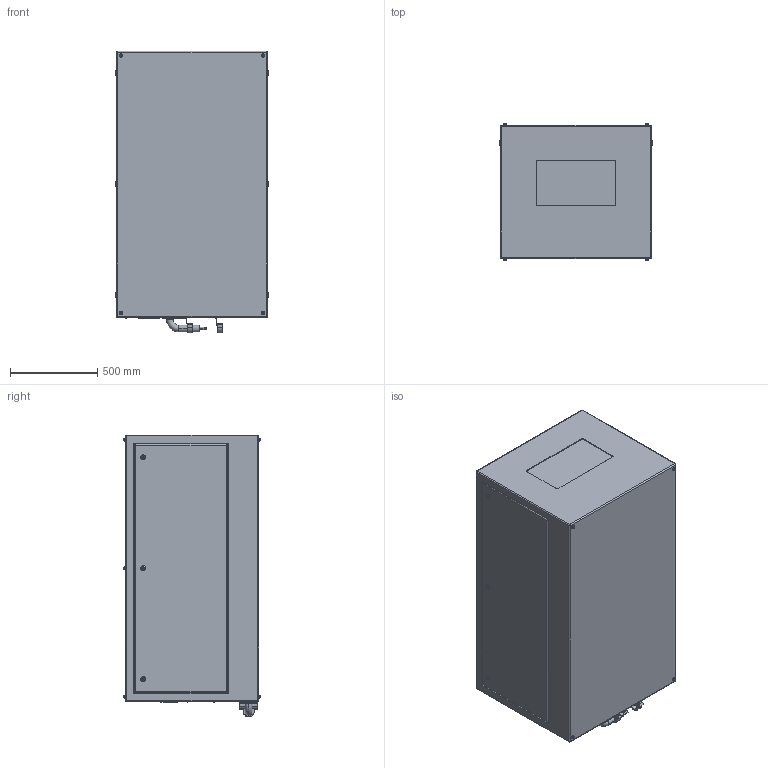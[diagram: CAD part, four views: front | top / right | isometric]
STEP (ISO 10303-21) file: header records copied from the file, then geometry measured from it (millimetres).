
FILE_DESCRIPTION (( 'STEP AP214' ), '1' );
FILE_NAME ('Oasis 59.314.L R02.STEP', '2022-09-12T23:42:20', ( '' ), ( '' ), 'SwSTEP 2.0', 'SolidWorks 2020', '' );
FILE_SCHEMA (( 'AUTOMOTIVE_DESIGN' ));
Length unit declared in the file: inch
Products named in the file (1): Oasis 59.314.L R02
Bounding box: 876.3 x 779.27 x 1612.9 mm (x, y, z)
Volume: 1002080052.3 mm3; surface area: 6810990.4 mm2
Topology: 3 solids, 9 shells, 510 faces, 1167 edges, 740 vertices
Faces by surface type: plane 279, cylinder 177, torus 46, bspline 8
Entity records: 19451 total; most frequent: CARTESIAN_POINT 2930, DIRECTION 2543, ORIENTED_EDGE 2318, EDGE_CURVE 1159, AXIS2_PLACEMENT_3D 913, VERTEX_POINT 740, LINE 717, VECTOR 717
